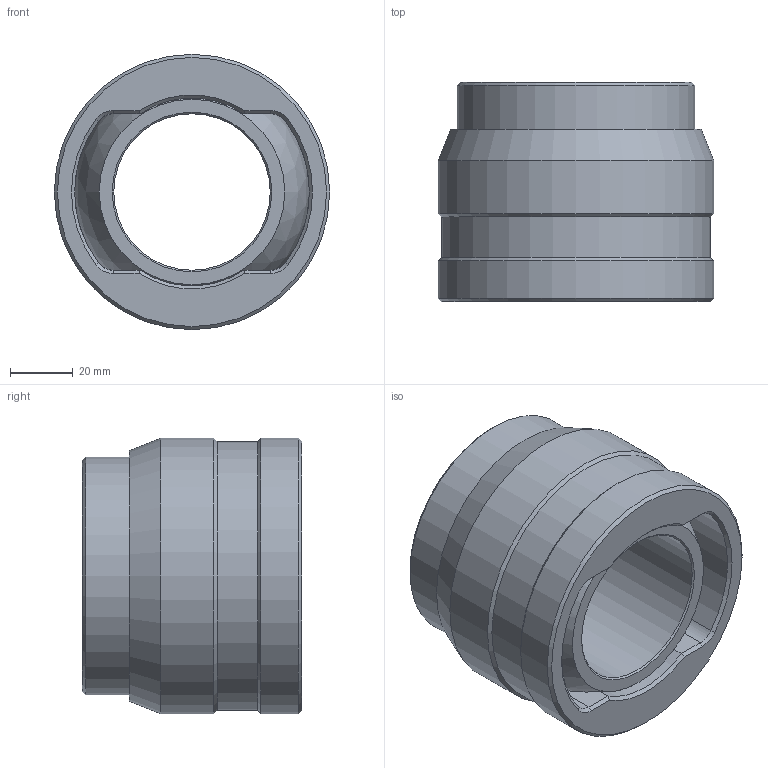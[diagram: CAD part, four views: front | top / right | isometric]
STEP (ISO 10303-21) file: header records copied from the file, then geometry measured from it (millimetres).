
FILE_DESCRIPTION(('STEP AP214'),'1');
FILE_NAME('C:/Projets/Serie 10.xx.xx/10.11.05.step','2011-11-10T15:39:41',(' '),(' '),'Spatial InterOp 3D',' ',' ');
FILE_SCHEMA(('automotive_design'));
Length unit declared in the file: metre
Products named in the file (2): boitier 05; rotule 05
Bounding box: 88 x 70 x 88 mm (x, y, z)
Volume: 225167.9 mm3; surface area: 58276.2 mm2
Topology: 2 solids, 2 shells, 49 faces, 104 edges, 61 vertices
Faces by surface type: cone 17, cylinder 16, plane 14, sphere 2
Full cylindrical faces by diameter (mm): 50 x1, 59 x1, 60 x2, 76 x1, 86 x1, 88 x2
Entity records: 1693 total; most frequent: CARTESIAN_POINT 271, DIRECTION 226, ORIENTED_EDGE 168, AXIS2_PLACEMENT_3D 99, EDGE_CURVE 84, EDGE_LOOP 74, VERTEX_POINT 60, FACE_OUTER_BOUND 59
